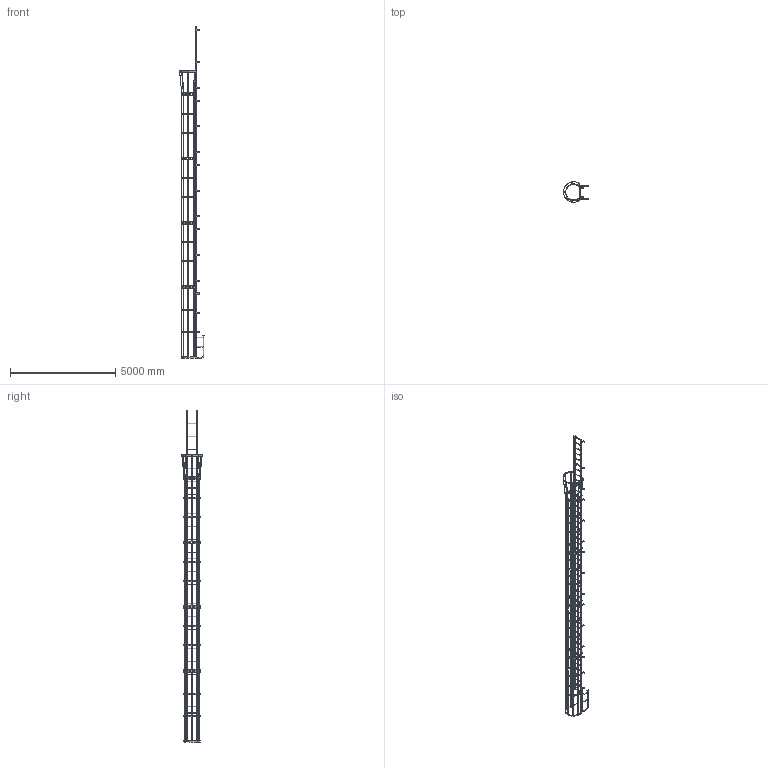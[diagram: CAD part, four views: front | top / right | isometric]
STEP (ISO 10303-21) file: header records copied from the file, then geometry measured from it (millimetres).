
FILE_DESCRIPTION(/* description */ (''),/* implementation_level */ '2;1');
FILE_NAME(/* name */ 'C:\Vault Working Folder\Company\Cotterman\3057\3570410 F49WC SIMPLIFIED PART.stp',/* time_stamp */ '2020-05-08T17:37:15-04:00',/* author */ ('karen'),/* organization */ (''),/* preprocessor_version */ 'ST-DEVELOPER v18',/* originating_system */ 'Autodesk Inventor 2020',/* authorisation */ '');
FILE_SCHEMA (('AUTOMOTIVE_DESIGN { 1 0 10303 214 3 1 1 }'));
Products named in the file (1): 3570410 F49WC SIMPLIFIED PART
Bounding box: 1195.62 x 977.88 x 15744.83 mm (x, y, z)
Volume: 56017397.6 mm3; surface area: 20873537.7 mm2
Topology: 65 solids, 65 shells, 1756 faces, 5515 edges, 3608 vertices
Faces by surface type: plane 1162, cylinder 586, torus 8
Full cylindrical faces by diameter (mm): 10.319 x4, 14.287 x38, 19.05 x49, 22.098 x10, 22.225 x98, 25.4 x8
Entity records: 64963 total; most frequent: CARTESIAN_POINT 11368, ORIENTED_EDGE 11146, DIRECTION 10697, EDGE_CURVE 5573, LINE 3915, VECTOR 3915, VERTEX_POINT 3630, AXIS2_PLACEMENT_3D 3391
